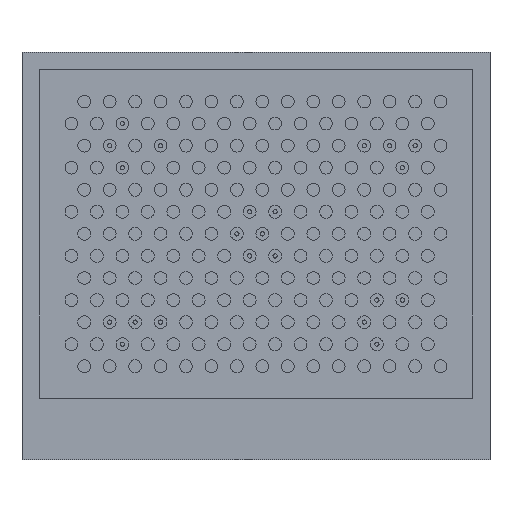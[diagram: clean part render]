
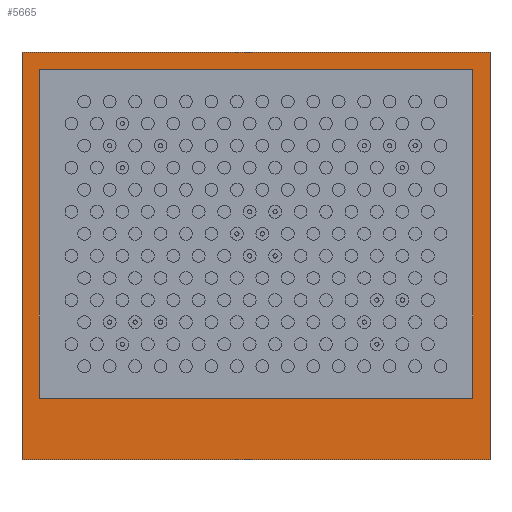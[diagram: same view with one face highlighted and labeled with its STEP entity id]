
A CAD part, top view. The second image highlights one B-rep face of the part: STEP entity #5665.
In plain terms, the highlighted planar face has unit normal (0, 0, 1).
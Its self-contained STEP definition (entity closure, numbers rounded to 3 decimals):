
#209=FACE_BOUND('',#1345,.T.);
#259=PLANE('',#6564);
#704=FACE_OUTER_BOUND('',#1344,.T.);
#1344=EDGE_LOOP('',(#4714,#4715,#4716,#4717));
#1345=EDGE_LOOP('',(#4718,#4719,#4720,#4721));
#1774=LINE('',#10017,#2015);
#1778=LINE('',#10025,#2019);
#1781=LINE('',#10031,#2022);
#1784=LINE('',#10036,#2025);
#1797=LINE('',#10119,#2038);
#1798=LINE('',#10121,#2039);
#1799=LINE('',#10123,#2040);
#1800=LINE('',#10124,#2041);
#2015=VECTOR('',#8233,10.);
#2019=VECTOR('',#8239,10.);
#2022=VECTOR('',#8244,10.);
#2025=VECTOR('',#8249,10.);
#2038=VECTOR('',#8354,10.);
#2039=VECTOR('',#8355,10.);
#2040=VECTOR('',#8356,10.);
#2041=VECTOR('',#8357,10.);
#2896=VERTEX_POINT('',#10015);
#2897=VERTEX_POINT('',#10016);
#2900=VERTEX_POINT('',#10024);
#2902=VERTEX_POINT('',#10030);
#2926=VERTEX_POINT('',#10117);
#2927=VERTEX_POINT('',#10118);
#2928=VERTEX_POINT('',#10120);
#2929=VERTEX_POINT('',#10122);
#3552=EDGE_CURVE('',#2896,#2897,#1774,.T.);
#3556=EDGE_CURVE('',#2897,#2900,#1778,.T.);
#3559=EDGE_CURVE('',#2900,#2902,#1781,.T.);
#3562=EDGE_CURVE('',#2902,#2896,#1784,.T.);
#3597=EDGE_CURVE('',#2926,#2927,#1797,.T.);
#3598=EDGE_CURVE('',#2927,#2928,#1798,.T.);
#3599=EDGE_CURVE('',#2928,#2929,#1799,.T.);
#3600=EDGE_CURVE('',#2929,#2926,#1800,.T.);
#4714=ORIENTED_EDGE('',*,*,#3597,.T.);
#4715=ORIENTED_EDGE('',*,*,#3598,.T.);
#4716=ORIENTED_EDGE('',*,*,#3599,.T.);
#4717=ORIENTED_EDGE('',*,*,#3600,.T.);
#4718=ORIENTED_EDGE('',*,*,#3552,.T.);
#4719=ORIENTED_EDGE('',*,*,#3556,.T.);
#4720=ORIENTED_EDGE('',*,*,#3559,.T.);
#4721=ORIENTED_EDGE('',*,*,#3562,.T.);
#5665=ADVANCED_FACE('',(#704,#209),#259,.T.);
#6564=AXIS2_PLACEMENT_3D('',#10116,#8352,#8353);
#8233=DIRECTION('',(-1.,0.,0.));
#8239=DIRECTION('',(0.,1.,0.));
#8244=DIRECTION('',(1.,0.,0.));
#8249=DIRECTION('',(0.,-1.,0.));
#8352=DIRECTION('center_axis',(0.,0.,1.));
#8353=DIRECTION('ref_axis',(1.,0.,0.));
#8354=DIRECTION('',(1.,0.,0.));
#8355=DIRECTION('',(0.,1.,0.));
#8356=DIRECTION('',(-1.,0.,0.));
#8357=DIRECTION('',(0.,-1.,0.));
#10015=CARTESIAN_POINT('',(25.,-16.4,2.));
#10016=CARTESIAN_POINT('',(-25.,-16.4,2.));
#10017=CARTESIAN_POINT('',(-12.5,-16.4,2.));
#10024=CARTESIAN_POINT('',(-25.,21.5,2.));
#10025=CARTESIAN_POINT('',(-25.,10.75,2.));
#10030=CARTESIAN_POINT('',(25.,21.5,2.));
#10031=CARTESIAN_POINT('',(12.5,21.5,2.));
#10036=CARTESIAN_POINT('',(25.,-8.2,2.));
#10116=CARTESIAN_POINT('Origin',(0.,0.,
2.));
#10117=CARTESIAN_POINT('',(-27.,-23.5,2.));
#10118=CARTESIAN_POINT('',(27.,-23.5,2.));
#10119=CARTESIAN_POINT('',(-27.,-23.5,2.));
#10120=CARTESIAN_POINT('',(27.,23.5,2.));
#10121=CARTESIAN_POINT('',(27.,-23.5,2.));
#10122=CARTESIAN_POINT('',(-27.,23.5,2.));
#10123=CARTESIAN_POINT('',(27.,23.5,2.));
#10124=CARTESIAN_POINT('',(-27.,23.5,2.));
